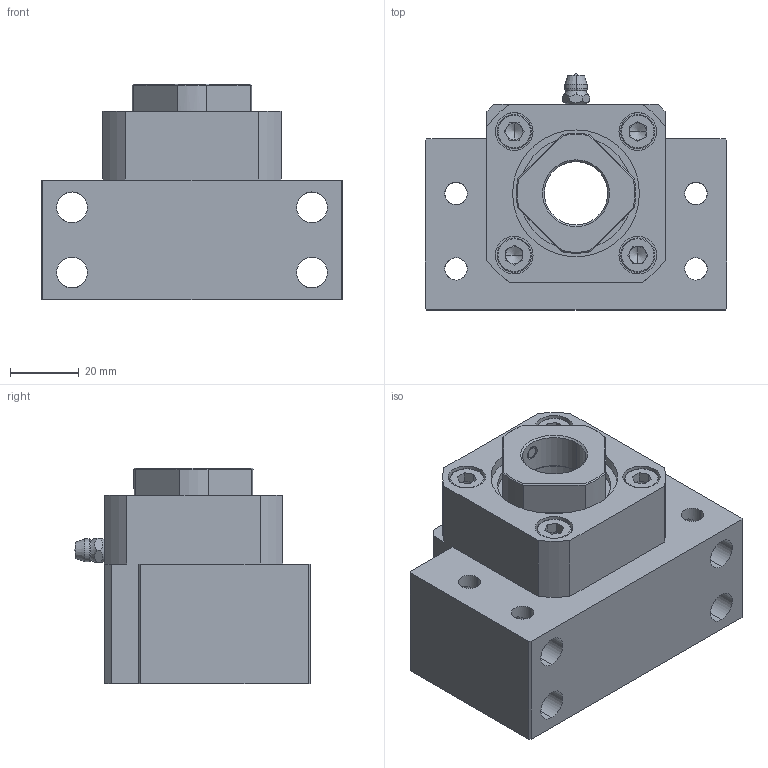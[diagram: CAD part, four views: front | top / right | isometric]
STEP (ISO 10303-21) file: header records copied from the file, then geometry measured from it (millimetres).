
FILE_DESCRIPTION (( 'STEP AP203' ), '1' );
FILE_NAME ('BK20G.STEP', '2018-09-15T02:02:01', ( '' ), ( '' ), 'SwSTEP 2.0', 'SolidWorks 2015', '' );
FILE_SCHEMA (( 'CONFIG_CONTROL_DESIGN' ));
Length unit declared in the file: millimetre
Products named in the file (1): BK20G
Bounding box: 88 x 68.9 x 63 mm (x, y, z)
Volume: 182227 mm3; surface area: 51004.7 mm2
Topology: 1 solids, 15 shells, 416 faces, 1010 edges, 617 vertices
Faces by surface type: cylinder 156, plane 142, cone 63, torus 48, bspline 7
Entity records: 13504 total; most frequent: CARTESIAN_POINT 3596, DIRECTION 2152, ORIENTED_EDGE 1980, EDGE_CURVE 990, AXIS2_PLACEMENT_3D 867, VERTEX_POINT 617, EDGE_LOOP 483, CIRCLE 457
